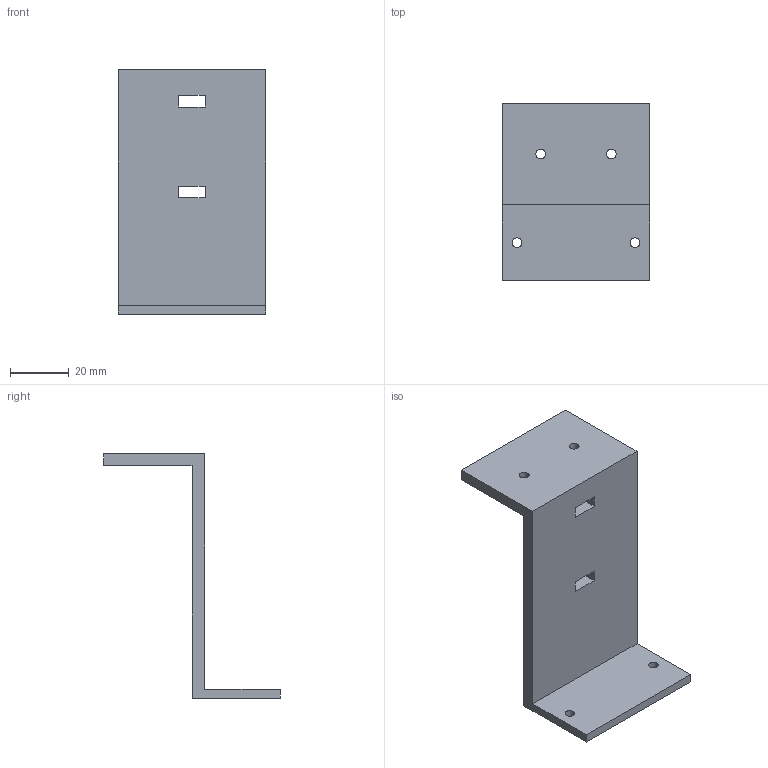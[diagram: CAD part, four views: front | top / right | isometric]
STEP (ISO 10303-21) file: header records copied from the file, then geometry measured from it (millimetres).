
FILE_DESCRIPTION (( 'STEP AP214' ), '1' );
FILE_NAME ('扜砉芛菁啣.STEP', '2026-01-25T02:24:02', ( '' ), ( '' ), 'SwSTEP 2.0', 'SolidWorks 2025', '' );
FILE_SCHEMA (( 'AUTOMOTIVE_DESIGN' ));
Length unit declared in the file: millimetre
Products named in the file (1): 摄像头底板
Bounding box: 50 x 60 x 83 mm (x, y, z)
Volume: 27202.6 mm3; surface area: 15560.6 mm2
Topology: 1 solids, 1 shells, 26 faces, 72 edges, 48 vertices
Faces by surface type: plane 18, cylinder 8
Entity records: 879 total; most frequent: CARTESIAN_POINT 147, ORIENTED_EDGE 144, DIRECTION 142, EDGE_CURVE 72, VECTOR 56, LINE 56, VERTEX_POINT 48, AXIS2_PLACEMENT_3D 43
